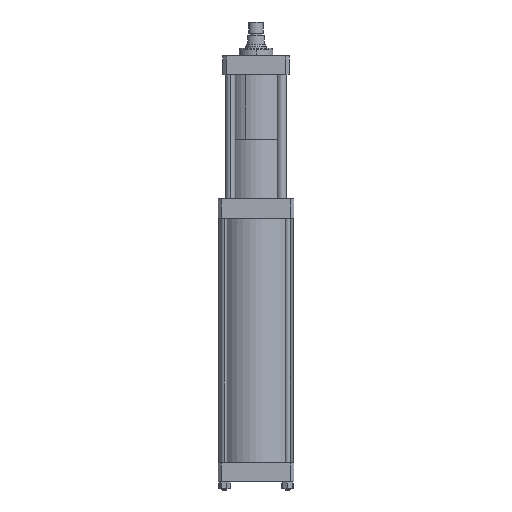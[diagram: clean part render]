
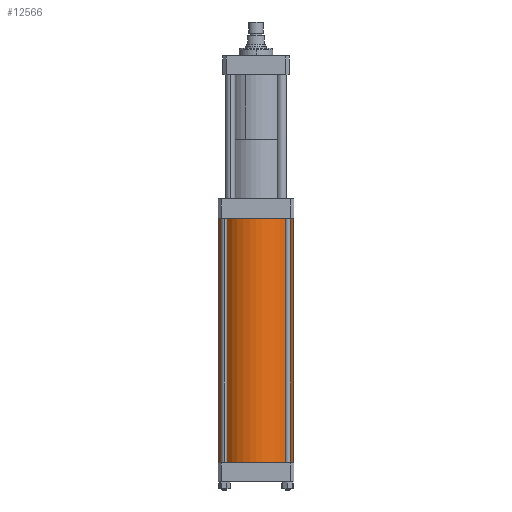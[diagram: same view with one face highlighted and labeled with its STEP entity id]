
A CAD part, front view. The second image highlights one B-rep face of the part: STEP entity #12566.
In plain terms, the highlighted cylindrical face has radius 55 mm (diameter 110 mm), a partial arc.
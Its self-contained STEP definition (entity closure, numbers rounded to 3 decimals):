
#263 = DIRECTION ( 'NONE',  ( -1., 0., 0. ) ) ;
#1146 = DIRECTION ( 'NONE',  ( 0., 0., -1. ) ) ;
#1459 = VERTEX_POINT ( 'NONE', #11437 ) ;
#1629 = EDGE_CURVE ( 'NONE', #17939, #6226, #5775, .T. ) ;
#1698 = AXIS2_PLACEMENT_3D ( 'NONE', #14132, #16733, #10007 ) ;
#1918 = LINE ( 'NONE', #3576, #10567 ) ;
#3576 = CARTESIAN_POINT ( 'NONE',  ( 55., 0., 180.5 ) ) ;
#3690 = EDGE_CURVE ( 'NONE', #7924, #1459, #6741, .T. ) ;
#3756 = LINE ( 'NONE', #10790, #18280 ) ;
#3760 = ORIENTED_EDGE ( 'NONE', *, *, #15144, .T. ) ;
#3834 = DIRECTION ( 'NONE',  ( 0., 0., 1. ) ) ;
#5253 = DIRECTION ( 'NONE',  ( 1., 0., 0. ) ) ;
#5665 = ORIENTED_EDGE ( 'NONE', *, *, #3690, .F. ) ;
#5775 = CIRCLE ( 'NONE', #8103, 55. ) ;
#5937 = FACE_OUTER_BOUND ( 'NONE', #12474, .T. ) ;
#6226 = VERTEX_POINT ( 'NONE', #9343 ) ;
#6741 = CIRCLE ( 'NONE', #1698, 55. ) ;
#7185 = CARTESIAN_POINT ( 'NONE',  ( -55., 0., 180.5 ) ) ;
#7323 = CARTESIAN_POINT ( 'NONE',  ( 0., 0., 180.5 ) ) ;
#7924 = VERTEX_POINT ( 'NONE', #7185 ) ;
#8103 = AXIS2_PLACEMENT_3D ( 'NONE', #9403, #3834, #5253 ) ;
#9343 = CARTESIAN_POINT ( 'NONE',  ( 55., 0., -180.5 ) ) ;
#9359 = CARTESIAN_POINT ( 'NONE',  ( -55., 0., -180.5 ) ) ;
#9403 = CARTESIAN_POINT ( 'NONE',  ( 0., 0., -180.5 ) ) ;
#10007 = DIRECTION ( 'NONE',  ( 1., 0., 0. ) ) ;
#10567 = VECTOR ( 'NONE', #11990, 1000. ) ;
#10790 = CARTESIAN_POINT ( 'NONE',  ( -55., 0., 180.5 ) ) ;
#11437 = CARTESIAN_POINT ( 'NONE',  ( 55., 0., 180.5 ) ) ;
#11642 = DIRECTION ( 'NONE',  ( 0., 0., -1. ) ) ;
#11990 = DIRECTION ( 'NONE',  ( 0., 0., -1. ) ) ;
#12293 = AXIS2_PLACEMENT_3D ( 'NONE', #7323, #11642, #263 ) ;
#12474 = EDGE_LOOP ( 'NONE', ( #13427, #5665, #3760, #14552 ) ) ;
#12566 = ADVANCED_FACE ( 'NONE', ( #5937 ), #15525, .T. ) ;
#13427 = ORIENTED_EDGE ( 'NONE', *, *, #14970, .F. ) ;
#14132 = CARTESIAN_POINT ( 'NONE',  ( 0., 0., 180.5 ) ) ;
#14552 = ORIENTED_EDGE ( 'NONE', *, *, #1629, .T. ) ;
#14970 = EDGE_CURVE ( 'NONE', #1459, #6226, #1918, .T. ) ;
#15144 = EDGE_CURVE ( 'NONE', #7924, #17939, #3756, .T. ) ;
#15525 = CYLINDRICAL_SURFACE ( 'NONE', #12293, 55. ) ;
#16733 = DIRECTION ( 'NONE',  ( 0., 0., 1. ) ) ;
#17939 = VERTEX_POINT ( 'NONE', #9359 ) ;
#18280 = VECTOR ( 'NONE', #1146, 1000. ) ;
